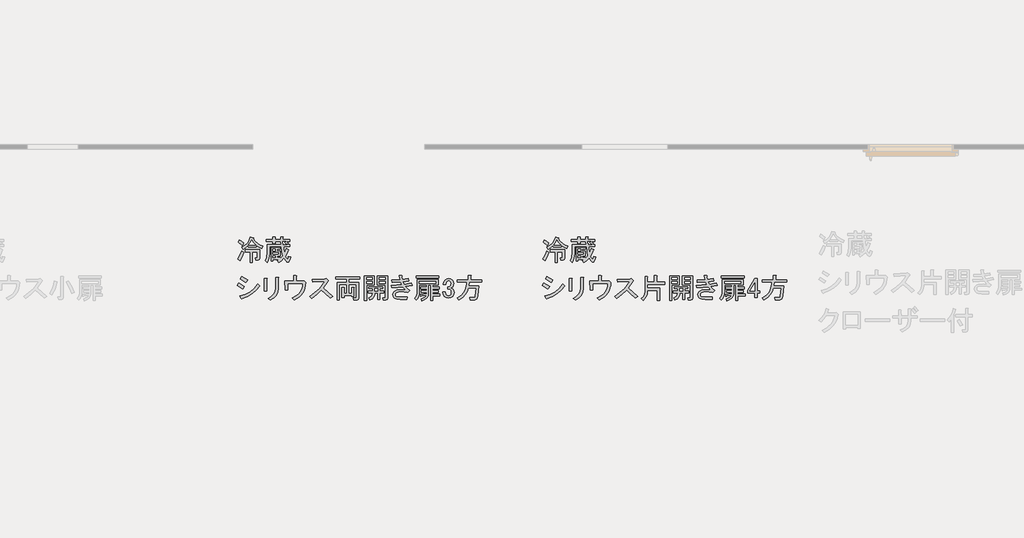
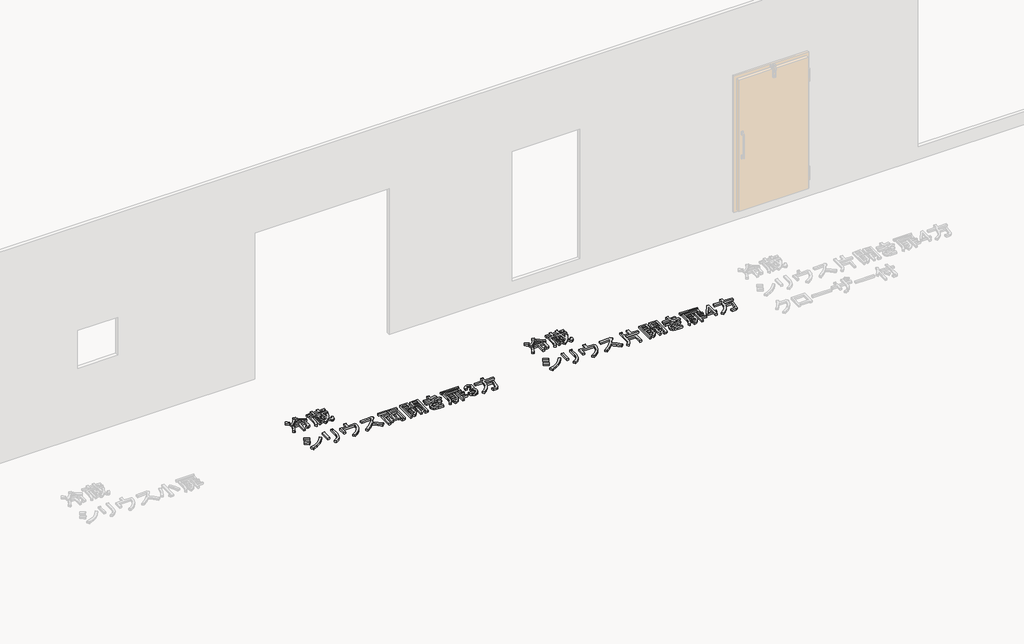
# One storey, part 79 of 117: 2 proxies.
"""IFC4 building model written with IfcOpenShell, lengths in millimetres."""

from ifc_helpers import new_model, si_unit, frame, origin, place, context, project, spatial, polyline, outline, extrude, element, save

model = new_model("IFC4")

# Units and contexts
model_context = context("Model", 3, world=origin())
ifc_project = project(units=[si_unit("LENGTHUNIT", "METRE", prefix="MILLI")], contexts=[model_context])

# Site, building, storey
site = spatial("IfcSite", under=ifc_project)
building = spatial("IfcBuilding", under=site)
storey = spatial("IfcBuildingStorey", under=building, Name="レベル 1", Elevation=500.0)

# Proxies
placement = place(None, origin())
element("IfcBuildingElementProxy", 1, Name="200㎜\u3000MS Pゴシック", ObjectType="200㎜\u3000MS Pゴシック", at=placement, inside=storey, context=model_context, shape_type="SweptSolid", body=[
    extrude(outline(polyline([(-15116.3970532, 18948.5050774), (-15082.7035553, 18967.9021871), (-15056.3378543, 18991.6097656), (-15037.2999504, 19019.6278129), (-15025.5898434, 19051.9563291), (-14994.5544679, 19043.9101206), (-14993.117645, 19040.174381), (-14998.002843, 19038.1628289), (-14979.1804624, 19010.6476696), (-14956.0476131, 18987.874026), (-14928.6042949, 18969.8418981), (-14896.850508, 18956.5512859), (-14908.3450915, 18932.4126605), (-14937.3689149, 18945.9187961), (-14966.9674674, 18965.7469527), (-14966.9674674, 18946.2061607), (-15049.7284688, 18946.2061607), (-15049.7284688, 18964.5974943), (-15074.1544588, 18942.7577856), (-15103.7530113, 18923.2169937), (-15116.3970532, 18948.5050774)]), holes=[polyline([(-14969.2663841, 18968.0458694), (-14995.4165617, 18995.3455052), (-15011.7963432, 19022.0704119), (-15025.5898434, 18993.0465885), (-15046.2800937, 18968.0458694), (-14969.2663841, 18968.0458694)])]), frame((0.0, 0.0, 500.0), z_axis=(0.0, 0.0, 1.0), x_axis=(1.0, 0.0, 0.0)), (0.0, 0.0, 1.0), 25.0),
    extrude(outline(polyline([(-15158.9270122, 18822.0646587), (-15135.9378452, 18861.7209718), (-15117.5465116, 18904.82566), (-15096.8562612, 18892.1816181), (-15114.3855011, 18848.2148362), (-15132.4894701, 18812.8689919), (-15133.0641993, 18806.5469709), (-15137.0873035, 18805.9722417), (-15158.9270122, 18822.0646587)])), frame((0.0, 0.0, 500.0), z_axis=(0.0, 0.0, 1.0), x_axis=(1.0, 0.0, 0.0)), (0.0, 0.0, 1.0), 25.0),
    extrude(outline(polyline([(-15079.6143859, 18897.9289099), (-15079.6143859, 18919.7686186), (-14930.1848002, 18919.7686186), (-14930.1848002, 18825.5130337), (-14934.2079044, 18814.3058148), (-14946.2772171, 18810.5700752), (-14971.5653009, 18810.5700752), (-14976.1631343, 18832.4097838), (-14957.7718006, 18832.4097838), (-14954.3234256, 18833.5592422), (-14953.1739672, 18837.0076172), (-14953.1739672, 18897.9289099), (-15007.1985098, 18897.9289099), (-15007.1985098, 18786.4314498), (-15030.1876768, 18786.4314498), (-15030.1876768, 18897.9289099), (-15079.6143859, 18897.9289099)])), frame((0.0, 0.0, 500.0), z_axis=(0.0, 0.0, 1.0), x_axis=(1.0, 0.0, 0.0)), (0.0, 0.0, 1.0), 25.0),
    extrude(outline(polyline([(-15141.685137, 19022.0704119), (-15120.9948866, 19009.1390055), (-15098.0057196, 18988.7361197), (-15114.0981365, 18965.7469527), (-15155.4786372, 19000.2307032), (-15141.685137, 19022.0704119)])), frame((0.0, 0.0, 500.0), z_axis=(0.0, 0.0, 1.0), x_axis=(1.0, 0.0, 0.0)), (0.0, 0.0, 1.0), 25.0),
    extrude(outline(polyline([(-14711.7877133, 18826.6624921), (-14685.3501712, 18853.1000342), (-14695.4079318, 18900.8025558), (-14700.2931298, 18954.2523692), (-14825.5840901, 18954.2523692), (-14825.5840901, 18879.5375763), (-14827.1645954, 18853.5310811), (-14831.9061111, 18829.536138), (-14839.8086373, 18807.552747), (-14850.8721739, 18787.5809081), (-14871.5624242, 18803.673325), (-14861.5046636, 18821.9209764), (-14854.3205489, 18842.1801798), (-14848.5732572, 18888.7332431), (-14848.5732572, 18976.0920778), (-14701.4425881, 18976.0920778), (-14701.4425881, 18987.5866614), (-14708.3393382, 18987.5866614), (-14708.3393382, 19005.977995), (-14768.1111725, 19005.977995), (-14768.1111725, 18984.1382863), (-14791.1003396, 18984.1382863), (-14791.1003396, 19005.977995), (-14860.0678407, 19005.977995), (-14860.0678407, 19027.8177037), (-14791.1003396, 19027.8177037), (-14791.1003396, 19053.1057874), (-14769.2606309, 19053.1057874), (-14764.3754329, 19050.8068707), (-14768.1111725, 19046.2090373), (-14768.1111725, 19027.8177037), (-14708.3393382, 19027.8177037), (-14708.3393382, 19053.1057874), (-14686.4996295, 19053.1057874), (-14681.6144316, 19050.8068707), (-14685.3501712, 19046.2090373), (-14685.3501712, 19027.8177037), (-14615.2332117, 19027.8177037), (-14615.2332117, 19005.977995), (-14652.015879, 19005.977995), (-14629.0267119, 18989.8855781), (-14642.8202122, 18976.0920778), (-14614.0837534, 18976.0920778), (-14614.0837534, 18954.2523692), (-14678.4534211, 18954.2523692), (-14669.2577543, 18877.2386596), (-14649.7169623, 18932.4126605), (-14626.7277952, 18922.0675353), (-14623.2794202, 18918.3317957), (-14629.0267119, 18916.3202435), (-14642.245483, 18882.4112222), (-14658.9126291, 18849.6516591), (-14646.8433164, 18828.099315), (-14635.9234621, 18820.9152003), (-14631.9003578, 18824.3635754), (-14629.0267119, 18834.7087005), (-14626.7277952, 18849.6516591), (-14604.8880866, 18841.6054507), (-14608.3364616, 18824.3635754), (-14617.819493, 18798.5007625), (-14624.5007197, 18792.0350592), (-14632.475087, 18789.8798248), (-14642.3891653, 18792.394265), (-14652.5906082, 18799.9375854), (-14673.8555877, 18830.1108671), (-14703.4541402, 18802.5238667), (-14730.1790469, 18784.1325331), (-14746.2714639, 18804.8227834), (-14723.2822968, 18818.6162836), (-14789.9508812, 18818.6162836), (-14789.9508812, 18801.3744083), (-14809.4916732, 18801.3744083), (-14809.4916732, 18942.7577856), (-14710.6382549, 18942.7577856), (-14710.6382549, 18924.366452), (-14743.9725471, 18924.366452), (-14743.9725471, 18908.2740351), (-14715.2360883, 18908.2740351), (-14715.2360883, 18855.3989509), (-14743.9725471, 18855.3989509), (-14743.9725471, 18837.0076172), (-14711.7877133, 18837.0076172), (-14711.7877133, 18826.6624921)]), holes=[polyline([(-14680.7523378, 18988.7361197), (-14675.8671398, 18986.1498384), (-14679.6028794, 18982.988828), (-14679.6028794, 18976.0920778), (-14646.2685872, 18976.0920778), (-14669.2577543, 18993.3339531), (-14656.6137124, 19005.977995), (-14685.3501712, 19005.977995), (-14685.3501712, 18988.7361197), (-14680.7523378, 18988.7361197)]), polyline([(-14789.9508812, 18908.2740351), (-14763.5133391, 18908.2740351), (-14763.5133391, 18924.366452), (-14789.9508812, 18924.366452), (-14789.9508812, 18908.2740351)]), polyline([(-14789.9508812, 18873.7902845), (-14734.7768803, 18873.7902845), (-14734.7768803, 18889.8827014), (-14789.9508812, 18889.8827014), (-14789.9508812, 18873.7902845)]), polyline([(-14789.9508812, 18837.0076172), (-14763.5133391, 18837.0076172), (-14763.5133391, 18855.3989509), (-14789.9508812, 18855.3989509), (-14789.9508812, 18837.0076172)])]), frame((0.0, 0.0, 500.0), z_axis=(0.0, 0.0, 1.0), x_axis=(1.0, 0.0, 0.0)), (0.0, 0.0, 1.0), 25.0),
    extrude(outline(polyline([(-15147.4324287, 18570.3447861), (-15088.8100528, 18533.5621188), (-15107.2013864, 18509.4234934), (-15164.674304, 18546.2061607), (-15147.4324287, 18570.3447861)])), frame((0.0, 0.0, 500.0), z_axis=(0.0, 0.0, 1.0), x_axis=(1.0, 0.0, 0.0)), (0.0, 0.0, 1.0), 25.0),
    extrude(outline(polyline([(-15115.2475949, 18638.1628289), (-15056.6252189, 18601.3801616), (-15072.7176358, 18577.2415362), (-15130.1905534, 18614.0242035), (-15115.2475949, 18638.1628289)])), frame((0.0, 0.0, 500.0), z_axis=(0.0, 0.0, 1.0), x_axis=(1.0, 0.0, 0.0)), (0.0, 0.0, 1.0), 25.0),
    extrude(outline(polyline([(-15139.3862203, 18431.2603255), (-15080.620162, 18449.7235003), (-15029.6129476, 18477.5260242), (-14986.3645771, 18514.6678972), (-14950.8750505, 18561.1491193), (-14930.1848002, 18540.4588689), (-14963.5190924, 18496.7794516), (-15004.8995931, 18459.9967843), (-15054.3263022, 18430.1108671), (-15111.7992198, 18407.1217001), (-15116.3970532, 18399.9375854), (-15123.2938033, 18405.9722417), (-15139.3862203, 18431.2603255)])), frame((0.0, 0.0, 500.0), z_axis=(0.0, 0.0, 1.0), x_axis=(1.0, 0.0, 0.0)), (0.0, 0.0, 1.0), 25.0),
    extrude(outline(polyline([(-14735.4665553, 18514.0213268), (-14740.4954356, 18473.9339668), (-14755.5820765, 18439.8812631), (-14780.726478, 18411.8632158), (-14815.92864, 18389.8798248), (-14838.917807, 18409.4206168), (-14805.655356, 18428.9614088), (-14781.732254, 18453.1000342), (-14767.1485012, 18481.836493), (-14761.9040974, 18515.1707852), (-14761.9040974, 18630.1166204), (-14737.765472, 18630.1166204), (-14731.4434511, 18626.6682453), (-14735.4665553, 18620.9209536), (-14735.4665553, 18514.0213268)])), frame((0.0, 0.0, 500.0), z_axis=(0.0, 0.0, 1.0), x_axis=(1.0, 0.0, 0.0)), (0.0, 0.0, 1.0), 25.0),
    extrude(outline(polyline([(-14853.8607656, 18488.7332431), (-14880.2983077, 18488.7332431), (-14880.2983077, 18618.6220369), (-14855.010224, 18618.6220369), (-14848.9755676, 18615.748391), (-14853.8607656, 18609.4263701), (-14853.8607656, 18488.7332431)])), frame((0.0, 0.0, 500.0), z_axis=(0.0, 0.0, 1.0), x_axis=(1.0, 0.0, 0.0)), (0.0, 0.0, 1.0), 25.0),
    extrude(outline(polyline([(-14446.952509, 18574.9426195), (-14448.8383391, 18544.6436157), (-14454.4958294, 18516.3920847), (-14463.92498, 18490.1880263), (-14477.1257907, 18466.0314406), (-14494.0982617, 18443.9223276), (-14514.8423929, 18423.8606873), (-14539.3581843, 18405.8465197), (-14567.6456359, 18389.8798248), (-14589.4853446, 18411.7195335), (-14540.6333647, 18440.1686277), (-14521.3799373, 18456.7639327), (-14505.5748849, 18474.9397429), (-14493.2182077, 18494.6960583), (-14484.3099054, 18516.032879), (-14478.8499782, 18538.9502048), (-14476.8384261, 18563.448036), (-14636.6131371, 18563.448036), (-14634.3142204, 18495.6299932), (-14660.7517625, 18495.6299932), (-14664.2001375, 18588.7361197), (-14573.3929277, 18588.7361197), (-14573.3929277, 18646.2090373), (-14550.4037607, 18646.2090373), (-14542.6449168, 18643.3353914), (-14546.9553856, 18637.0133705), (-14546.9553856, 18588.7361197), (-14460.7460092, 18588.7361197), (-14446.952509, 18574.9426195)])), frame((0.0, 0.0, 500.0), z_axis=(0.0, 0.0, 1.0), x_axis=(1.0, 0.0, 0.0)), (0.0, 0.0, 1.0), 25.0),
    extrude(outline(polyline([(-14262.3035193, 18517.4697019), (-14213.1641748, 18476.6639304), (-14164.5995594, 18430.1108671), (-14187.5887264, 18410.5700752), (-14235.0038834, 18457.1231384), (-14280.6948529, 18495.6299932), (-14328.6847391, 18449.9390237), (-14382.9966463, 18409.4206168), (-14404.836355, 18428.9614088), (-14349.3749895, 18468.6177219), (-14304.8334783, 18508.2740351), (-14271.2118215, 18547.9303482), (-14248.5100191, 18587.5866614), (-14373.8009795, 18579.5404529), (-14377.2493545, 18607.1274534), (-14243.9121857, 18612.8747451), (-14230.1186855, 18616.3231202), (-14211.7273518, 18597.9317865), (-14208.8537059, 18591.322401), (-14216.3251852, 18587.5866614), (-14262.3035193, 18517.4697019)])), frame((0.0, 0.0, 500.0), z_axis=(0.0, 0.0, 1.0), x_axis=(1.0, 0.0, 0.0)), (0.0, 0.0, 1.0), 25.0),
    extrude(outline(polyline([(-13992.8704816, 18611.7252868), (-13992.8704816, 18576.0920778), (-13891.7181466, 18576.0920778), (-13891.7181466, 18407.1217001), (-13895.7412508, 18395.0523874), (-13907.8105635, 18391.0292832), (-13943.4437725, 18391.0292832), (-13946.8921475, 18412.8689919), (-13919.3051471, 18412.8689919), (-13915.856772, 18414.0184502), (-13914.7073137, 18417.4668253), (-13914.7073137, 18554.2523692), (-13992.8704816, 18554.2523692), (-13992.8704816, 18458.8473259), (-13965.2834811, 18458.8473259), (-13965.2834811, 18524.366452), (-13943.4437725, 18524.366452), (-13938.5585745, 18522.0675353), (-13942.2943141, 18517.4697019), (-13942.2943141, 18426.6624921), (-13965.2834811, 18426.6624921), (-13965.2834811, 18437.0076172), (-14043.4466491, 18437.0076172), (-14043.4466491, 18417.4668253), (-14066.4358161, 18417.4668253), (-14066.4358161, 18524.366452), (-14044.5961074, 18524.366452), (-14039.7109094, 18522.0675353), (-14043.4466491, 18517.4697019), (-14043.4466491, 18458.8473259), (-14015.8596486, 18458.8473259), (-14015.8596486, 18554.2523692), (-14094.0228166, 18554.2523692), (-14094.0228166, 18392.1787415), (-14117.0119836, 18392.1787415), (-14117.0119836, 18576.0920778), (-14015.8596486, 18576.0920778), (-14015.8596486, 18611.7252868), (-14130.8054838, 18611.7252868), (-14130.8054838, 18633.5649954), (-13877.9246464, 18633.5649954), (-13877.9246464, 18611.7252868), (-13992.8704816, 18611.7252868)])), frame((0.0, 0.0, 500.0), z_axis=(0.0, 0.0, 1.0), x_axis=(1.0, 0.0, 0.0)), (0.0, 0.0, 1.0), 25.0),
    extrude(outline(polyline([(-13790.5658116, 18465.7440761), (-13790.5658116, 18484.1354097), (-13744.5874775, 18484.1354097), (-13744.5874775, 18511.7224101), (-13782.5196032, 18511.7224101), (-13782.5196032, 18530.1137438), (-13637.6878508, 18530.1137438), (-13637.6878508, 18511.7224101), (-13667.573768, 18511.7224101), (-13667.573768, 18484.1354097), (-13628.492184, 18484.1354097), (-13628.492184, 18465.7440761), (-13667.573768, 18465.7440761), (-13667.573768, 18396.7765749), (-13690.562935, 18396.7765749), (-13690.562935, 18465.7440761), (-13721.5983105, 18465.7440761), (-13723.9690684, 18442.1083387), (-13733.3802586, 18421.7772941), (-13749.8318813, 18404.7509422), (-13773.3239363, 18391.0292832), (-13784.8185199, 18412.8689919), (-13767.2174389, 18421.7772941), (-13754.6452381, 18433.5592422), (-13747.1019177, 18448.2148362), (-13744.5874775, 18465.7440761), (-13790.5658116, 18465.7440761)]), holes=[polyline([(-13690.562935, 18484.1354097), (-13690.562935, 18511.7224101), (-13721.5983105, 18511.7224101), (-13721.5983105, 18484.1354097), (-13690.562935, 18484.1354097)])]), frame((0.0, 0.0, 500.0), z_axis=(0.0, 0.0, 1.0), x_axis=(1.0, 0.0, 0.0)), (0.0, 0.0, 1.0), 25.0),
    extrude(outline(polyline([(-13726.1961439, 18548.5050774), (-13806.6582286, 18548.5050774), (-13806.6582286, 18387.5809081), (-13829.6473956, 18387.5809081), (-13829.6473956, 18643.9101206), (-13726.1961439, 18643.9101206), (-13726.1961439, 18548.5050774)]), holes=[polyline([(-13749.185311, 18625.518787), (-13806.6582286, 18625.518787), (-13806.6582286, 18604.8285366), (-13749.185311, 18604.8285366), (-13749.185311, 18625.518787)]), polyline([(-13806.6582286, 18566.896411), (-13749.185311, 18566.896411), (-13749.185311, 18586.437203), (-13806.6582286, 18586.437203), (-13806.6582286, 18566.896411)])]), frame((0.0, 0.0, 500.0), z_axis=(0.0, 0.0, 1.0), x_axis=(1.0, 0.0, 0.0)), (0.0, 0.0, 1.0), 25.0),
    extrude(outline(polyline([(-13695.1607684, 18643.9101206), (-13587.1116833, 18643.9101206), (-13587.1116833, 18409.4206168), (-13591.7095167, 18395.6271166), (-13605.503017, 18391.0292832), (-13633.0900174, 18391.0292832), (-13636.5383925, 18412.8689919), (-13614.6986838, 18412.8689919), (-13611.2503087, 18414.0184502), (-13610.1008504, 18417.4668253), (-13610.1008504, 18548.5050774), (-13652.6308094, 18548.5050774), (-13695.1607684, 18548.5050774), (-13695.1607684, 18643.9101206)]), holes=[polyline([(-13672.1716014, 18566.896411), (-13610.1008504, 18566.896411), (-13610.1008504, 18586.437203), (-13672.1716014, 18586.437203), (-13672.1716014, 18566.896411)]), polyline([(-13610.1008504, 18604.8285366), (-13610.1008504, 18625.518787), (-13672.1716014, 18625.518787), (-13672.1716014, 18604.8285366), (-13610.1008504, 18604.8285366)])]), frame((0.0, 0.0, 500.0), z_axis=(0.0, 0.0, 1.0), x_axis=(1.0, 0.0, 0.0)), (0.0, 0.0, 1.0), 25.0),
    extrude(outline(polyline([(-13426.187514, 18582.988828), (-13412.3940138, 18554.2523692), (-13339.9781376, 18570.3447861), (-13329.6330125, 18546.2061607), (-13399.7499719, 18533.5621188), (-13379.9218154, 18511.147681), (-13354.9210962, 18489.8827014), (-13374.4618882, 18470.3419095), (-13411.53192, 18477.2386596), (-13439.9810143, 18479.5375763), (-13477.9131399, 18476.0892012), (-13490.8445463, 18471.7787324), (-13499.7528486, 18465.7440761), (-13505.7875049, 18457.410503), (-13507.799057, 18448.5022008), (-13506.0748695, 18438.1570756), (-13500.9023069, 18430.1108671), (-13483.373067, 18423.214117), (-13449.1766811, 18420.9152003), (-13379.0597216, 18420.9152003), (-13383.657555, 18395.6271166), (-13453.7745145, 18395.6271166), (-13492.8560985, 18400.22495), (-13507.2243279, 18405.9722417), (-13518.1441822, 18414.0184502), (-13528.4893074, 18429.8235025), (-13531.9376824, 18449.6516591), (-13528.776672, 18465.7440761), (-13519.2936405, 18479.5375763), (-13506.9369633, 18488.0866728), (-13489.4077234, 18494.1931703), (-13438.8315559, 18499.0783683), (-13397.4510552, 18495.6299932), (-13426.187514, 18528.9642854), (-13482.7983379, 18523.7917228), (-13544.5817243, 18522.0675353), (-13548.0300993, 18546.2061607), (-13491.1319109, 18546.7808899), (-13437.6820976, 18550.8039941), (-13450.3261394, 18579.5404529), (-13538.8344325, 18576.0920778), (-13541.1333492, 18599.0812449), (-13456.0734312, 18601.3801616), (-13465.269098, 18648.507954), (-13439.9810143, 18648.507954), (-13433.9463579, 18645.059579), (-13438.8315559, 18639.3122872), (-13433.0842641, 18604.8285366), (-13372.1629715, 18616.3231202), (-13364.116763, 18593.3339531), (-13426.187514, 18582.988828)])), frame((0.0, 0.0, 500.0), z_axis=(0.0, 0.0, 1.0), x_axis=(1.0, 0.0, 0.0)), (0.0, 0.0, 1.0), 25.0),
    extrude(outline(polyline([(-13047.9697379, 18641.6112039), (-13047.9697379, 18623.2198703), (-13287.0570751, 18623.2198703), (-13287.0570751, 18641.6112039), (-13047.9697379, 18641.6112039)])), frame((0.0, 0.0, 500.0), z_axis=(0.0, 0.0, 1.0), x_axis=(1.0, 0.0, 0.0)), (0.0, 0.0, 1.0), 25.0),
    extrude(outline(polyline([(-13235.3314493, 18403.673325), (-13215.5032927, 18410.3545517), (-13199.6982403, 18418.9036482), (-13187.9162922, 18429.3206145), (-13180.1574484, 18441.6054507), (-13235.3314493, 18433.5592422), (-13237.3430014, 18428.6740442), (-13241.078741, 18430.1108671), (-13245.6765744, 18451.9505758), (-13177.8585317, 18458.8473259), (-13177.8585317, 18472.6408262), (-13231.8830742, 18472.6408262), (-13231.8830742, 18491.0321598), (-13177.8585317, 18491.0321598), (-13177.8585317, 18509.4234934), (-13238.7798243, 18509.4234934), (-13238.7798243, 18527.8148271), (-13177.8585317, 18527.8148271), (-13177.8585317, 18548.5050774), (-13252.5733245, 18548.5050774), (-13252.5733245, 18482.9859513), (-13254.5848767, 18455.6144743), (-13260.619533, 18430.9729609), (-13270.6772936, 18409.0614111), (-13284.7581584, 18389.8798248), (-13302.0000337, 18407.1217001), (-13290.433609, 18424.7946223), (-13282.1718771, 18444.4790965), (-13277.214838, 18466.1751229), (-13275.5624916, 18489.8827014), (-13275.5624916, 18605.977995), (-13058.314863, 18605.977995), (-13058.314863, 18548.5050774), (-13114.6383223, 18548.5050774), (-13114.6383223, 18527.8148271), (-13044.5213628, 18527.8148271), (-13044.5213628, 18509.4234934), (-13114.6383223, 18509.4234934), (-13114.6383223, 18491.0321598), (-13057.1654047, 18491.0321598), (-13057.1654047, 18472.6408262), (-13114.6383223, 18472.6408262), (-13114.6383223, 18453.1000342), (-13037.6246127, 18453.1000342), (-13037.6246127, 18434.7087005), (-13114.6383223, 18434.7087005), (-13114.6383223, 18388.7303665), (-13134.1791143, 18388.7303665), (-13134.1791143, 18548.5050774), (-13158.3177397, 18548.5050774), (-13158.3177397, 18462.295701), (-13162.7000496, 18434.4931771), (-13175.8469795, 18412.0068981), (-13197.7585294, 18394.836864), (-13228.4346991, 18382.9830747), (-13235.3314493, 18403.673325)]), holes=[polyline([(-13081.3040301, 18587.5866614), (-13252.5733245, 18587.5866614), (-13252.5733245, 18566.896411), (-13081.3040301, 18566.896411), (-13081.3040301, 18587.5866614)])]), frame((0.0, 0.0, 500.0), z_axis=(0.0, 0.0, 1.0), x_axis=(1.0, 0.0, 0.0)), (0.0, 0.0, 1.0), 25.0),
    extrude(outline(polyline([(-13001.9914038, 18556.5512859), (-12997.680935, 18580.6899113), (-12984.7495285, 18600.2307032), (-12968.0823824, 18611.4379222), (-12947.9668612, 18615.1736618), (-12925.2650588, 18611.4379222), (-12907.7358189, 18600.2307032), (-12897.3906938, 18584.1382863), (-12893.9423187, 18563.448036), (-12896.8159646, 18543.3325148), (-12905.4369022, 18528.9642854), (-12913.7704753, 18522.6422645), (-12922.6787775, 18519.7686186), (-12903.1379855, 18508.2740351), (-12892.7928604, 18492.1816181), (-12889.3444853, 18471.4913678), (-12893.3675895, 18448.5022008), (-12905.4369022, 18430.1108671), (-12924.6903296, 18418.0415544), (-12950.265778, 18414.0184502), (-12972.3928512, 18418.0415544), (-12990.4968203, 18430.1108671), (-13002.566133, 18447.640107), (-13006.5892372, 18468.0429928), (-13006.5892372, 18477.2386596), (-12980.1516951, 18477.2386596), (-12980.1516951, 18469.1924511), (-12977.5654138, 18455.3989509), (-12969.8065699, 18443.9043674), (-12960.8982677, 18437.869711), (-12950.265778, 18435.8581589), (-12936.7596423, 18438.1570756), (-12926.1271526, 18445.0538257), (-12919.2304024, 18456.8357738), (-12916.9314857, 18473.7902845), (-12919.2304024, 18488.1585139), (-12926.1271526, 18499.0783683), (-12935.8975486, 18505.9751184), (-12946.8174029, 18508.2740351), (-12956.0130697, 18508.2740351), (-12956.0130697, 18527.8148271), (-12949.1163196, 18527.8148271), (-12939.058559, 18530.1137438), (-12929.5755276, 18537.0104939), (-12922.6787775, 18548.2177128), (-12920.3798608, 18563.448036), (-12922.6787775, 18576.9541716), (-12929.5755276, 18587.5866614), (-12937.6217361, 18592.759224), (-12947.9668612, 18594.4834115), (-12957.7372572, 18592.4718594), (-12966.3581949, 18586.437203), (-12973.5423096, 18574.3678903), (-12976.70332, 18556.5512859), (-13001.9914038, 18556.5512859)])), frame((0.0, 0.0, 500.0), z_axis=(0.0, 0.0, 1.0), x_axis=(1.0, 0.0, 0.0)), (0.0, 0.0, 1.0), 25.0),
    extrude(outline(polyline([(-12736.4665245, 18538.1599522), (-12629.5668977, 18538.1599522), (-12641.0614813, 18434.7087005), (-12644.869062, 18416.6047315), (-12651.693971, 18403.673325), (-12661.5362081, 18395.9144812), (-12674.3957735, 18393.3281999), (-12720.3741075, 18393.3281999), (-12726.1213993, 18418.6162836), (-12676.6946902, 18418.6162836), (-12670.0853046, 18422.9267524), (-12666.349565, 18435.8581589), (-12657.1538982, 18516.3202435), (-12739.9148995, 18516.3202435), (-12751.6968476, 18480.8307169), (-12772.0997334, 18447.9274716), (-12801.1235568, 18417.6105076), (-12838.7683178, 18389.8798248), (-12854.8607347, 18414.0184502), (-12815.2762627, 18440.2404689), (-12786.1805982, 18472.9281908), (-12767.5737411, 18512.0816159), (-12759.4556915, 18557.7007442), (-12758.3062332, 18578.3909946), (-12854.8607347, 18578.3909946), (-12854.8607347, 18603.6790783), (-12742.2138162, 18603.6790783), (-12742.2138162, 18649.6574124), (-12716.9257325, 18649.6574124), (-12710.8910761, 18646.2090373), (-12715.7762741, 18640.4617456), (-12715.7762741, 18603.6790783), (-12599.6809806, 18603.6790783), (-12599.6809806, 18578.3909946), (-12731.8686911, 18578.3909946), (-12736.4665245, 18538.1599522)])), frame((0.0, 0.0, 500.0), z_axis=(0.0, 0.0, 1.0), x_axis=(1.0, 0.0, 0.0)), (0.0, 0.0, 1.0), 25.0),
])
element("IfcBuildingElementProxy", 2, Name="200㎜\u3000MS Pゴシック", ObjectType="200㎜\u3000MS Pゴシック", at=placement, inside=storey, context=model_context, shape_type="SweptSolid", body=[
    extrude(outline(polyline([(-11916.3970532, 18948.5050774), (-11882.7035553, 18967.9021871), (-11856.3378543, 18991.6097656), (-11837.2999504, 19019.6278129), (-11825.5898434, 19051.9563291), (-11794.5544679, 19043.9101206), (-11793.117645, 19040.174381), (-11798.002843, 19038.1628289), (-11779.1804624, 19010.6476696), (-11756.0476131, 18987.874026), (-11728.6042949, 18969.8418981), (-11696.850508, 18956.5512859), (-11708.3450915, 18932.4126605), (-11737.3689149, 18945.9187961), (-11766.9674674, 18965.7469527), (-11766.9674674, 18946.2061607), (-11849.7284688, 18946.2061607), (-11849.7284688, 18964.5974943), (-11874.1544588, 18942.7577856), (-11903.7530113, 18923.2169937), (-11916.3970532, 18948.5050774)]), holes=[polyline([(-11769.2663841, 18968.0458694), (-11795.4165617, 18995.3455052), (-11811.7963432, 19022.0704119), (-11825.5898434, 18993.0465885), (-11846.2800937, 18968.0458694), (-11769.2663841, 18968.0458694)])]), frame((0.0, 0.0, 500.0), z_axis=(0.0, 0.0, 1.0), x_axis=(1.0, 0.0, 0.0)), (0.0, 0.0, 1.0), 25.0),
    extrude(outline(polyline([(-11958.9270122, 18822.0646587), (-11935.9378452, 18861.7209718), (-11917.5465116, 18904.82566), (-11896.8562612, 18892.1816181), (-11914.3855011, 18848.2148362), (-11932.4894701, 18812.8689919), (-11933.0641993, 18806.5469709), (-11937.0873035, 18805.9722417), (-11958.9270122, 18822.0646587)])), frame((0.0, 0.0, 500.0), z_axis=(0.0, 0.0, 1.0), x_axis=(1.0, 0.0, 0.0)), (0.0, 0.0, 1.0), 25.0),
    extrude(outline(polyline([(-11879.6143859, 18897.9289099), (-11879.6143859, 18919.7686186), (-11730.1848002, 18919.7686186), (-11730.1848002, 18825.5130337), (-11734.2079044, 18814.3058148), (-11746.2772171, 18810.5700752), (-11771.5653009, 18810.5700752), (-11776.1631343, 18832.4097838), (-11757.7718006, 18832.4097838), (-11754.3234256, 18833.5592422), (-11753.1739672, 18837.0076172), (-11753.1739672, 18897.9289099), (-11807.1985098, 18897.9289099), (-11807.1985098, 18786.4314498), (-11830.1876768, 18786.4314498), (-11830.1876768, 18897.9289099), (-11879.6143859, 18897.9289099)])), frame((0.0, 0.0, 500.0), z_axis=(0.0, 0.0, 1.0), x_axis=(1.0, 0.0, 0.0)), (0.0, 0.0, 1.0), 25.0),
    extrude(outline(polyline([(-11941.685137, 19022.0704119), (-11920.9948866, 19009.1390055), (-11898.0057196, 18988.7361197), (-11914.0981365, 18965.7469527), (-11955.4786372, 19000.2307032), (-11941.685137, 19022.0704119)])), frame((0.0, 0.0, 500.0), z_axis=(0.0, 0.0, 1.0), x_axis=(1.0, 0.0, 0.0)), (0.0, 0.0, 1.0), 25.0),
    extrude(outline(polyline([(-11511.7877133, 18826.6624921), (-11485.3501712, 18853.1000342), (-11495.4079318, 18900.8025558), (-11500.2931298, 18954.2523692), (-11625.5840901, 18954.2523692), (-11625.5840901, 18879.5375763), (-11627.1645954, 18853.5310811), (-11631.9061111, 18829.536138), (-11639.8086373, 18807.552747), (-11650.8721739, 18787.5809081), (-11671.5624242, 18803.673325), (-11661.5046636, 18821.9209764), (-11654.3205489, 18842.1801798), (-11648.5732572, 18888.7332431), (-11648.5732572, 18976.0920778), (-11501.4425881, 18976.0920778), (-11501.4425881, 18987.5866614), (-11508.3393382, 18987.5866614), (-11508.3393382, 19005.977995), (-11568.1111725, 19005.977995), (-11568.1111725, 18984.1382863), (-11591.1003396, 18984.1382863), (-11591.1003396, 19005.977995), (-11660.0678407, 19005.977995), (-11660.0678407, 19027.8177037), (-11591.1003396, 19027.8177037), (-11591.1003396, 19053.1057874), (-11569.2606309, 19053.1057874), (-11564.3754329, 19050.8068707), (-11568.1111725, 19046.2090373), (-11568.1111725, 19027.8177037), (-11508.3393382, 19027.8177037), (-11508.3393382, 19053.1057874), (-11486.4996295, 19053.1057874), (-11481.6144316, 19050.8068707), (-11485.3501712, 19046.2090373), (-11485.3501712, 19027.8177037), (-11415.2332117, 19027.8177037), (-11415.2332117, 19005.977995), (-11452.015879, 19005.977995), (-11429.0267119, 18989.8855781), (-11442.8202122, 18976.0920778), (-11414.0837534, 18976.0920778), (-11414.0837534, 18954.2523692), (-11478.4534211, 18954.2523692), (-11469.2577543, 18877.2386596), (-11449.7169623, 18932.4126605), (-11426.7277952, 18922.0675353), (-11423.2794202, 18918.3317957), (-11429.0267119, 18916.3202435), (-11442.245483, 18882.4112222), (-11458.9126291, 18849.6516591), (-11446.8433164, 18828.099315), (-11435.9234621, 18820.9152003), (-11431.9003578, 18824.3635754), (-11429.0267119, 18834.7087005), (-11426.7277952, 18849.6516591), (-11404.8880866, 18841.6054507), (-11408.3364616, 18824.3635754), (-11417.819493, 18798.5007625), (-11424.5007197, 18792.0350592), (-11432.475087, 18789.8798248), (-11442.3891653, 18792.394265), (-11452.5906082, 18799.9375854), (-11473.8555877, 18830.1108671), (-11503.4541402, 18802.5238667), (-11530.1790469, 18784.1325331), (-11546.2714639, 18804.8227834), (-11523.2822968, 18818.6162836), (-11589.9508812, 18818.6162836), (-11589.9508812, 18801.3744083), (-11609.4916732, 18801.3744083), (-11609.4916732, 18942.7577856), (-11510.6382549, 18942.7577856), (-11510.6382549, 18924.366452), (-11543.9725471, 18924.366452), (-11543.9725471, 18908.2740351), (-11515.2360883, 18908.2740351), (-11515.2360883, 18855.3989509), (-11543.9725471, 18855.3989509), (-11543.9725471, 18837.0076172), (-11511.7877133, 18837.0076172), (-11511.7877133, 18826.6624921)]), holes=[polyline([(-11480.7523378, 18988.7361197), (-11475.8671398, 18986.1498384), (-11479.6028794, 18982.988828), (-11479.6028794, 18976.0920778), (-11446.2685872, 18976.0920778), (-11469.2577543, 18993.3339531), (-11456.6137124, 19005.977995), (-11485.3501712, 19005.977995), (-11485.3501712, 18988.7361197), (-11480.7523378, 18988.7361197)]), polyline([(-11589.9508812, 18908.2740351), (-11563.5133391, 18908.2740351), (-11563.5133391, 18924.366452), (-11589.9508812, 18924.366452), (-11589.9508812, 18908.2740351)]), polyline([(-11589.9508812, 18873.7902845), (-11534.7768803, 18873.7902845), (-11534.7768803, 18889.8827014), (-11589.9508812, 18889.8827014), (-11589.9508812, 18873.7902845)]), polyline([(-11589.9508812, 18837.0076172), (-11563.5133391, 18837.0076172), (-11563.5133391, 18855.3989509), (-11589.9508812, 18855.3989509), (-11589.9508812, 18837.0076172)])]), frame((0.0, 0.0, 500.0), z_axis=(0.0, 0.0, 1.0), x_axis=(1.0, 0.0, 0.0)), (0.0, 0.0, 1.0), 25.0),
    extrude(outline(polyline([(-11947.4324287, 18570.3447861), (-11888.8100528, 18533.5621188), (-11907.2013864, 18509.4234934), (-11964.674304, 18546.2061607), (-11947.4324287, 18570.3447861)])), frame((0.0, 0.0, 500.0), z_axis=(0.0, 0.0, 1.0), x_axis=(1.0, 0.0, 0.0)), (0.0, 0.0, 1.0), 25.0),
    extrude(outline(polyline([(-11915.2475949, 18638.1628289), (-11856.6252189, 18601.3801616), (-11872.7176358, 18577.2415362), (-11930.1905534, 18614.0242035), (-11915.2475949, 18638.1628289)])), frame((0.0, 0.0, 500.0), z_axis=(0.0, 0.0, 1.0), x_axis=(1.0, 0.0, 0.0)), (0.0, 0.0, 1.0), 25.0),
    extrude(outline(polyline([(-11939.3862203, 18431.2603255), (-11880.620162, 18449.7235003), (-11829.6129476, 18477.5260242), (-11786.3645771, 18514.6678972), (-11750.8750505, 18561.1491193), (-11730.1848002, 18540.4588689), (-11763.5190924, 18496.7794516), (-11804.8995931, 18459.9967843), (-11854.3263022, 18430.1108671), (-11911.7992198, 18407.1217001), (-11916.3970532, 18399.9375854), (-11923.2938033, 18405.9722417), (-11939.3862203, 18431.2603255)])), frame((0.0, 0.0, 500.0), z_axis=(0.0, 0.0, 1.0), x_axis=(1.0, 0.0, 0.0)), (0.0, 0.0, 1.0), 25.0),
    extrude(outline(polyline([(-11535.4665553, 18514.0213268), (-11540.4954356, 18473.9339668), (-11555.5820765, 18439.8812631), (-11580.726478, 18411.8632158), (-11615.92864, 18389.8798248), (-11638.917807, 18409.4206168), (-11605.655356, 18428.9614088), (-11581.732254, 18453.1000342), (-11567.1485012, 18481.836493), (-11561.9040974, 18515.1707852), (-11561.9040974, 18630.1166204), (-11537.765472, 18630.1166204), (-11531.4434511, 18626.6682453), (-11535.4665553, 18620.9209536), (-11535.4665553, 18514.0213268)])), frame((0.0, 0.0, 500.0), z_axis=(0.0, 0.0, 1.0), x_axis=(1.0, 0.0, 0.0)), (0.0, 0.0, 1.0), 25.0),
    extrude(outline(polyline([(-11653.8607656, 18488.7332431), (-11680.2983077, 18488.7332431), (-11680.2983077, 18618.6220369), (-11655.010224, 18618.6220369), (-11648.9755676, 18615.748391), (-11653.8607656, 18609.4263701), (-11653.8607656, 18488.7332431)])), frame((0.0, 0.0, 500.0), z_axis=(0.0, 0.0, 1.0), x_axis=(1.0, 0.0, 0.0)), (0.0, 0.0, 1.0), 25.0),
    extrude(outline(polyline([(-11246.952509, 18574.9426195), (-11248.8383391, 18544.6436157), (-11254.4958294, 18516.3920847), (-11263.92498, 18490.1880263), (-11277.1257907, 18466.0314406), (-11294.0982617, 18443.9223276), (-11314.8423929, 18423.8606873), (-11339.3581843, 18405.8465197), (-11367.6456359, 18389.8798248), (-11389.4853446, 18411.7195335), (-11340.6333647, 18440.1686277), (-11321.3799373, 18456.7639327), (-11305.5748849, 18474.9397429), (-11293.2182077, 18494.6960583), (-11284.3099054, 18516.032879), (-11278.8499782, 18538.9502048), (-11276.8384261, 18563.448036), (-11436.6131371, 18563.448036), (-11434.3142204, 18495.6299932), (-11460.7517625, 18495.6299932), (-11464.2001375, 18588.7361197), (-11373.3929277, 18588.7361197), (-11373.3929277, 18646.2090373), (-11350.4037607, 18646.2090373), (-11342.6449168, 18643.3353914), (-11346.9553856, 18637.0133705), (-11346.9553856, 18588.7361197), (-11260.7460092, 18588.7361197), (-11246.952509, 18574.9426195)])), frame((0.0, 0.0, 500.0), z_axis=(0.0, 0.0, 1.0), x_axis=(1.0, 0.0, 0.0)), (0.0, 0.0, 1.0), 25.0),
    extrude(outline(polyline([(-11062.3035193, 18517.4697019), (-11013.1641748, 18476.6639304), (-10964.5995594, 18430.1108671), (-10987.5887264, 18410.5700752), (-11035.0038834, 18457.1231384), (-11080.6948529, 18495.6299932), (-11128.6847391, 18449.9390237), (-11182.9966463, 18409.4206168), (-11204.836355, 18428.9614088), (-11149.3749895, 18468.6177219), (-11104.8334783, 18508.2740351), (-11071.2118215, 18547.9303482), (-11048.5100191, 18587.5866614), (-11173.8009795, 18579.5404529), (-11177.2493545, 18607.1274534), (-11043.9121857, 18612.8747451), (-11030.1186855, 18616.3231202), (-11011.7273518, 18597.9317865), (-11008.8537059, 18591.322401), (-11016.3251852, 18587.5866614), (-11062.3035193, 18517.4697019)])), frame((0.0, 0.0, 500.0), z_axis=(0.0, 0.0, 1.0), x_axis=(1.0, 0.0, 0.0)), (0.0, 0.0, 1.0), 25.0),
    extrude(outline(polyline([(-10864.1368994, 18637.0133705), (-10858.1022431, 18633.5649954), (-10862.9874411, 18627.8177037), (-10862.9874411, 18579.5404529), (-10791.7210232, 18579.5404529), (-10791.7210232, 18648.507954), (-10766.4329395, 18648.507954), (-10760.3982831, 18645.059579), (-10765.2834811, 18639.3122872), (-10765.2834811, 18579.5404529), (-10680.2235631, 18579.5404529), (-10680.2235631, 18554.2523692), (-10862.9874411, 18554.2523692), (-10862.9874411, 18517.4697019), (-10733.0986473, 18517.4697019), (-10733.0986473, 18388.7303665), (-10759.5361894, 18388.7303665), (-10759.5361894, 18492.1816181), (-10862.9874411, 18492.1816181), (-10862.9874411, 18480.6870346), (-10865.7174047, 18453.7466045), (-10873.9072954, 18429.2487734), (-10887.5571133, 18407.1935412), (-10906.6668584, 18387.5809081), (-10925.0581921, 18405.9722417), (-10907.9599991, 18421.5617706), (-10895.7470041, 18439.5938985), (-10888.4192071, 18460.0686254), (-10885.9766081, 18482.9859513), (-10885.9766081, 18637.0133705), (-10864.1368994, 18637.0133705)])), frame((0.0, 0.0, 500.0), z_axis=(0.0, 0.0, 1.0), x_axis=(1.0, 0.0, 0.0)), (0.0, 0.0, 1.0), 25.0),
    extrude(outline(polyline([(-10526.1961439, 18548.5050774), (-10606.6582286, 18548.5050774), (-10606.6582286, 18387.5809081), (-10629.6473956, 18387.5809081), (-10629.6473956, 18643.9101206), (-10526.1961439, 18643.9101206), (-10526.1961439, 18548.5050774)]), holes=[polyline([(-10549.185311, 18625.518787), (-10606.6582286, 18625.518787), (-10606.6582286, 18604.8285366), (-10549.185311, 18604.8285366), (-10549.185311, 18625.518787)]), polyline([(-10606.6582286, 18566.896411), (-10549.185311, 18566.896411), (-10549.185311, 18586.437203), (-10606.6582286, 18586.437203), (-10606.6582286, 18566.896411)])]), frame((0.0, 0.0, 500.0), z_axis=(0.0, 0.0, 1.0), x_axis=(1.0, 0.0, 0.0)), (0.0, 0.0, 1.0), 25.0),
    extrude(outline(polyline([(-10590.5658116, 18465.7440761), (-10590.5658116, 18484.1354097), (-10544.5874775, 18484.1354097), (-10544.5874775, 18511.7224101), (-10582.5196032, 18511.7224101), (-10582.5196032, 18530.1137438), (-10437.6878508, 18530.1137438), (-10437.6878508, 18511.7224101), (-10467.573768, 18511.7224101), (-10467.573768, 18484.1354097), (-10428.492184, 18484.1354097), (-10428.492184, 18465.7440761), (-10467.573768, 18465.7440761), (-10467.573768, 18396.7765749), (-10490.562935, 18396.7765749), (-10490.562935, 18465.7440761), (-10521.5983105, 18465.7440761), (-10523.9690684, 18442.1083387), (-10533.3802586, 18421.7772941), (-10549.8318813, 18404.7509422), (-10573.3239363, 18391.0292832), (-10584.8185199, 18412.8689919), (-10567.2174389, 18421.7772941), (-10554.6452381, 18433.5592422), (-10547.1019177, 18448.2148362), (-10544.5874775, 18465.7440761), (-10590.5658116, 18465.7440761)]), holes=[polyline([(-10490.562935, 18484.1354097), (-10490.562935, 18511.7224101), (-10521.5983105, 18511.7224101), (-10521.5983105, 18484.1354097), (-10490.562935, 18484.1354097)])]), frame((0.0, 0.0, 500.0), z_axis=(0.0, 0.0, 1.0), x_axis=(1.0, 0.0, 0.0)), (0.0, 0.0, 1.0), 25.0),
    extrude(outline(polyline([(-10495.1607684, 18643.9101206), (-10387.1116833, 18643.9101206), (-10387.1116833, 18409.4206168), (-10391.7095167, 18395.6271166), (-10405.503017, 18391.0292832), (-10433.0900174, 18391.0292832), (-10436.5383925, 18412.8689919), (-10414.6986838, 18412.8689919), (-10411.2503087, 18414.0184502), (-10410.1008504, 18417.4668253), (-10410.1008504, 18548.5050774), (-10452.6308094, 18548.5050774), (-10495.1607684, 18548.5050774), (-10495.1607684, 18643.9101206)]), holes=[polyline([(-10472.1716014, 18566.896411), (-10410.1008504, 18566.896411), (-10410.1008504, 18586.437203), (-10472.1716014, 18586.437203), (-10472.1716014, 18566.896411)]), polyline([(-10410.1008504, 18604.8285366), (-10410.1008504, 18625.518787), (-10472.1716014, 18625.518787), (-10472.1716014, 18604.8285366), (-10410.1008504, 18604.8285366)])]), frame((0.0, 0.0, 500.0), z_axis=(0.0, 0.0, 1.0), x_axis=(1.0, 0.0, 0.0)), (0.0, 0.0, 1.0), 25.0),
    extrude(outline(polyline([(-10226.187514, 18582.988828), (-10212.3940138, 18554.2523692), (-10139.9781376, 18570.3447861), (-10129.6330125, 18546.2061607), (-10199.7499719, 18533.5621188), (-10179.9218154, 18511.147681), (-10154.9210962, 18489.8827014), (-10174.4618882, 18470.3419095), (-10211.53192, 18477.2386596), (-10239.9810143, 18479.5375763), (-10277.9131399, 18476.0892012), (-10290.8445463, 18471.7787324), (-10299.7528486, 18465.7440761), (-10305.7875049, 18457.410503), (-10307.799057, 18448.5022008), (-10306.0748695, 18438.1570756), (-10300.9023069, 18430.1108671), (-10283.373067, 18423.214117), (-10249.1766811, 18420.9152003), (-10179.0597216, 18420.9152003), (-10183.657555, 18395.6271166), (-10253.7745145, 18395.6271166), (-10292.8560985, 18400.22495), (-10307.2243279, 18405.9722417), (-10318.1441822, 18414.0184502), (-10328.4893074, 18429.8235025), (-10331.9376824, 18449.6516591), (-10328.776672, 18465.7440761), (-10319.2936405, 18479.5375763), (-10306.9369633, 18488.0866728), (-10289.4077234, 18494.1931703), (-10238.8315559, 18499.0783683), (-10197.4510552, 18495.6299932), (-10226.187514, 18528.9642854), (-10282.7983379, 18523.7917228), (-10344.5817243, 18522.0675353), (-10348.0300993, 18546.2061607), (-10291.1319109, 18546.7808899), (-10237.6820976, 18550.8039941), (-10250.3261394, 18579.5404529), (-10338.8344325, 18576.0920778), (-10341.1333492, 18599.0812449), (-10256.0734312, 18601.3801616), (-10265.269098, 18648.507954), (-10239.9810143, 18648.507954), (-10233.9463579, 18645.059579), (-10238.8315559, 18639.3122872), (-10233.0842641, 18604.8285366), (-10172.1629715, 18616.3231202), (-10164.116763, 18593.3339531), (-10226.187514, 18582.988828)])), frame((0.0, 0.0, 500.0), z_axis=(0.0, 0.0, 1.0), x_axis=(1.0, 0.0, 0.0)), (0.0, 0.0, 1.0), 25.0),
    extrude(outline(polyline([(-9847.9697379, 18641.6112039), (-9847.9697379, 18623.2198703), (-10087.0570751, 18623.2198703), (-10087.0570751, 18641.6112039), (-9847.9697379, 18641.6112039)])), frame((0.0, 0.0, 500.0), z_axis=(0.0, 0.0, 1.0), x_axis=(1.0, 0.0, 0.0)), (0.0, 0.0, 1.0), 25.0),
    extrude(outline(polyline([(-10035.3314493, 18403.673325), (-10015.5032927, 18410.3545517), (-9999.6982403, 18418.9036482), (-9987.9162922, 18429.3206145), (-9980.1574484, 18441.6054507), (-10035.3314493, 18433.5592422), (-10037.3430014, 18428.6740442), (-10041.078741, 18430.1108671), (-10045.6765744, 18451.9505758), (-9977.8585317, 18458.8473259), (-9977.8585317, 18472.6408262), (-10031.8830742, 18472.6408262), (-10031.8830742, 18491.0321598), (-9977.8585317, 18491.0321598), (-9977.8585317, 18509.4234934), (-10038.7798243, 18509.4234934), (-10038.7798243, 18527.8148271), (-9977.8585317, 18527.8148271), (-9977.8585317, 18548.5050774), (-10052.5733245, 18548.5050774), (-10052.5733245, 18482.9859513), (-10054.5848767, 18455.6144743), (-10060.619533, 18430.9729609), (-10070.6772936, 18409.0614111), (-10084.7581584, 18389.8798248), (-10102.0000337, 18407.1217001), (-10090.433609, 18424.7946223), (-10082.1718771, 18444.4790965), (-10077.214838, 18466.1751229), (-10075.5624916, 18489.8827014), (-10075.5624916, 18605.977995), (-9858.314863, 18605.977995), (-9858.314863, 18548.5050774), (-9914.6383223, 18548.5050774), (-9914.6383223, 18527.8148271), (-9844.5213628, 18527.8148271), (-9844.5213628, 18509.4234934), (-9914.6383223, 18509.4234934), (-9914.6383223, 18491.0321598), (-9857.1654047, 18491.0321598), (-9857.1654047, 18472.6408262), (-9914.6383223, 18472.6408262), (-9914.6383223, 18453.1000342), (-9837.6246127, 18453.1000342), (-9837.6246127, 18434.7087005), (-9914.6383223, 18434.7087005), (-9914.6383223, 18388.7303665), (-9934.1791143, 18388.7303665), (-9934.1791143, 18548.5050774), (-9958.3177397, 18548.5050774), (-9958.3177397, 18462.295701), (-9962.7000496, 18434.4931771), (-9975.8469795, 18412.0068981), (-9997.7585294, 18394.836864), (-10028.4346991, 18382.9830747), (-10035.3314493, 18403.673325)]), holes=[polyline([(-9881.3040301, 18587.5866614), (-10052.5733245, 18587.5866614), (-10052.5733245, 18566.896411), (-9881.3040301, 18566.896411), (-9881.3040301, 18587.5866614)])]), frame((0.0, 0.0, 500.0), z_axis=(0.0, 0.0, 1.0), x_axis=(1.0, 0.0, 0.0)), (0.0, 0.0, 1.0), 25.0),
    extrude(outline(polyline([(-9734.173361, 18615.1736618), (-9707.7358189, 18615.1736618), (-9707.7358189, 18488.7332431), (-9683.5971935, 18488.7332431), (-9683.5971935, 18466.8935344), (-9707.7358189, 18466.8935344), (-9707.7358189, 18416.3173669), (-9734.173361, 18416.3173669), (-9734.173361, 18466.8935344), (-9811.1870706, 18466.8935344), (-9811.1870706, 18489.8827014), (-9734.173361, 18615.1736618)]), holes=[polyline([(-9734.173361, 18572.6437028), (-9785.8989869, 18488.7332431), (-9734.173361, 18488.7332431), (-9734.173361, 18572.6437028)])]), frame((0.0, 0.0, 500.0), z_axis=(0.0, 0.0, 1.0), x_axis=(1.0, 0.0, 0.0)), (0.0, 0.0, 1.0), 25.0),
    extrude(outline(polyline([(-9536.4665245, 18538.1599522), (-9429.5668977, 18538.1599522), (-9441.0614813, 18434.7087005), (-9444.869062, 18416.6047315), (-9451.693971, 18403.673325), (-9461.5362081, 18395.9144812), (-9474.3957735, 18393.3281999), (-9520.3741075, 18393.3281999), (-9526.1213993, 18418.6162836), (-9476.6946902, 18418.6162836), (-9470.0853046, 18422.9267524), (-9466.349565, 18435.8581589), (-9457.1538982, 18516.3202435), (-9539.9148995, 18516.3202435), (-9551.6968476, 18480.8307169), (-9572.0997334, 18447.9274716), (-9601.1235568, 18417.6105076), (-9638.7683178, 18389.8798248), (-9654.8607347, 18414.0184502), (-9615.2762627, 18440.2404689), (-9586.1805982, 18472.9281908), (-9567.5737411, 18512.0816159), (-9559.4556915, 18557.7007442), (-9558.3062332, 18578.3909946), (-9654.8607347, 18578.3909946), (-9654.8607347, 18603.6790783), (-9542.2138162, 18603.6790783), (-9542.2138162, 18649.6574124), (-9516.9257325, 18649.6574124), (-9510.8910761, 18646.2090373), (-9515.7762741, 18640.4617456), (-9515.7762741, 18603.6790783), (-9399.6809806, 18603.6790783), (-9399.6809806, 18578.3909946), (-9531.8686911, 18578.3909946), (-9536.4665245, 18538.1599522)])), frame((0.0, 0.0, 500.0), z_axis=(0.0, 0.0, 1.0), x_axis=(1.0, 0.0, 0.0)), (0.0, 0.0, 1.0), 25.0),
])

save(model, "model.ifc")
